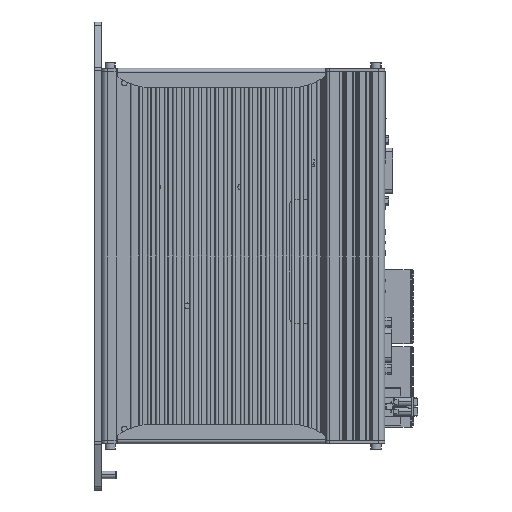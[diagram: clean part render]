
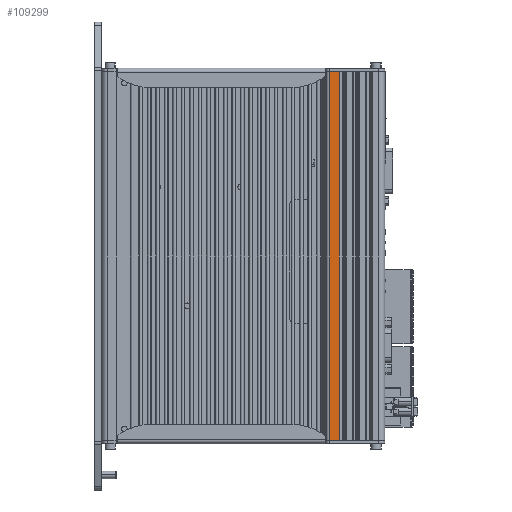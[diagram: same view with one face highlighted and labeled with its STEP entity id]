
A CAD part, front view. The second image highlights one B-rep face of the part: STEP entity #109299.
In plain terms, the highlighted planar face has unit normal (0, -1, 0).
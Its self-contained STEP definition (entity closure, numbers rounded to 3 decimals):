
#1669 = EDGE_CURVE ( 'NONE', #44534, #69698, #15893, .T. ) ;
#6673 = CARTESIAN_POINT ( 'NONE',  ( 82.05, -37.1, -2. ) ) ;
#9004 = CARTESIAN_POINT ( 'NONE',  ( 128.037, -37.1, -198. ) ) ;
#15893 = LINE ( 'NONE', #94798, #118978 ) ;
#16654 = ORIENTED_EDGE ( 'NONE', *, *, #1669, .T. ) ;
#20397 = LINE ( 'NONE', #6673, #43782 ) ;
#24104 = ORIENTED_EDGE ( 'NONE', *, *, #97549, .F. ) ;
#25750 = ORIENTED_EDGE ( 'NONE', *, *, #50102, .T. ) ;
#28125 = DIRECTION ( 'NONE',  ( 0., -1., 0. ) ) ;
#34087 = FACE_OUTER_BOUND ( 'NONE', #57111, .T. ) ;
#40198 = CARTESIAN_POINT ( 'NONE',  ( 128.037, -37.1, -2. ) ) ;
#43782 = VECTOR ( 'NONE', #56378, 1000. ) ;
#44234 = VERTEX_POINT ( 'NONE', #93314 ) ;
#44534 = VERTEX_POINT ( 'NONE', #9004 ) ;
#45230 = EDGE_CURVE ( 'NONE', #69698, #80277, #93286, .T. ) ;
#47703 = PLANE ( 'NONE',  #60384 ) ;
#50102 = EDGE_CURVE ( 'NONE', #44234, #44534, #97049, .T. ) ;
#50161 = DIRECTION ( 'NONE',  ( 0., 0., -1. ) ) ;
#56378 = DIRECTION ( 'NONE',  ( 1., 0., 0. ) ) ;
#57111 = EDGE_LOOP ( 'NONE', ( #25750, #16654, #81331, #24104 ) ) ;
#60384 = AXIS2_PLACEMENT_3D ( 'NONE', #87890, #28125, #97945 ) ;
#62464 = DIRECTION ( 'NONE',  ( 0., 0., 1. ) ) ;
#66625 = VECTOR ( 'NONE', #62464, 1000. ) ;
#69698 = VERTEX_POINT ( 'NONE', #121763 ) ;
#70380 = VECTOR ( 'NONE', #50161, 1000. ) ;
#80277 = VERTEX_POINT ( 'NONE', #102902 ) ;
#81331 = ORIENTED_EDGE ( 'NONE', *, *, #45230, .T. ) ;
#87890 = CARTESIAN_POINT ( 'NONE',  ( 82.05, -37.1, -2. ) ) ;
#93286 = LINE ( 'NONE', #102236, #66625 ) ;
#93314 = CARTESIAN_POINT ( 'NONE',  ( 128.037, -37.1, -2. ) ) ;
#94798 = CARTESIAN_POINT ( 'NONE',  ( 82.05, -37.1, -198. ) ) ;
#97049 = LINE ( 'NONE', #40198, #70380 ) ;
#97549 = EDGE_CURVE ( 'NONE', #44234, #80277, #20397, .T. ) ;
#97945 = DIRECTION ( 'NONE',  ( 0., 0., -1. ) ) ;
#102236 = CARTESIAN_POINT ( 'NONE',  ( 133.231, -37.1, -2. ) ) ;
#102902 = CARTESIAN_POINT ( 'NONE',  ( 133.231, -37.1, -2. ) ) ;
#104842 = DIRECTION ( 'NONE',  ( 1., 0., 0. ) ) ;
#109299 = ADVANCED_FACE ( 'NONE', ( #34087 ), #47703, .T. ) ;
#118978 = VECTOR ( 'NONE', #104842, 1000. ) ;
#121763 = CARTESIAN_POINT ( 'NONE',  ( 133.231, -37.1, -198. ) ) ;
